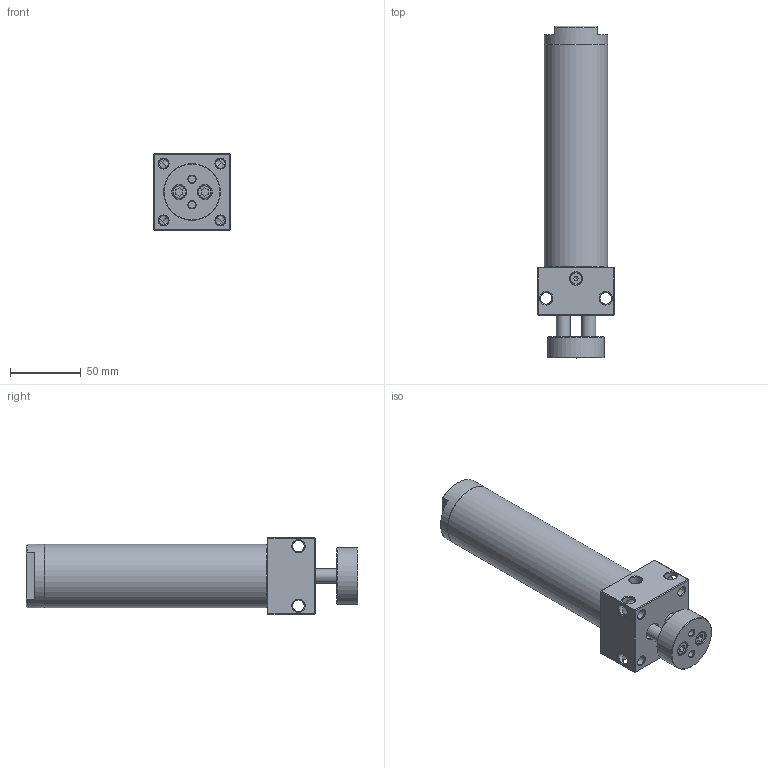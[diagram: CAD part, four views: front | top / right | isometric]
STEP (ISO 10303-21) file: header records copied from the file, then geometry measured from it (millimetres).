
FILE_DESCRIPTION((''),'2;1');
FILE_NAME('I:\3D電子目錄\氣缸\DBT\DBT\DBT40\DBT40x100.stp','2007-10-08T09:01:09',('Administrator'),(''),'Autodesk Inventor 2008','Autodesk Inventor 2008','');
FILE_SCHEMA(('AUTOMOTIVE_DESIGN { 1 0 10303 214 1 1 1 1 }'));
Length unit declared in the file: millimetre
Products named in the file (1): DBT40x100
Bounding box: 54 x 234 x 54 mm (x, y, z)
Volume: 196526.5 mm3; surface area: 81205.7 mm2
Topology: 5 solids, 5 shells, 164 faces, 360 edges, 215 vertices
Faces by surface type: plane 57, bspline 47, cone 37, cylinder 23
Full cylindrical faces by diameter (mm): 3 x1, 4.3 x1, 6 x1, 9.5 x1, 10 x4, 12 x1, 13 x1, 22 x1, 38.8 x2, 40 x2, 40.8 x2, 42 x2, 42.2 x2, 45 x2
Entity records: 4662 total; most frequent: CARTESIAN_POINT 1568, DIRECTION 604, ORIENTED_EDGE 500, EDGE_LOOP 300, AXIS2_PLACEMENT_3D 256, EDGE_CURVE 250, VERTEX_POINT 196, FACE_OUTER_BOUND 164
